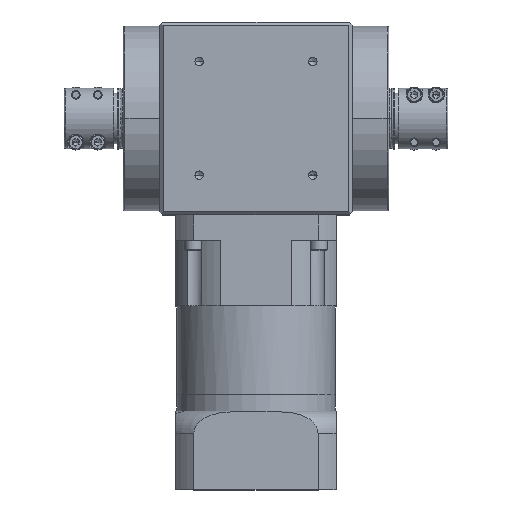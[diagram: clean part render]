
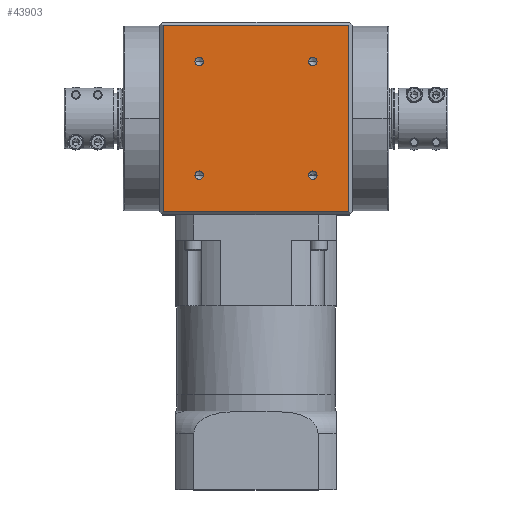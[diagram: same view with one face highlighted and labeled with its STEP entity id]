
A CAD part, top view. The second image highlights one B-rep face of the part: STEP entity #43903.
In plain terms, the highlighted planar face has unit normal (0, 0, 1).
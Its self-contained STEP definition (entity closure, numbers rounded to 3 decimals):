
#554 = CIRCLE ( 'NONE', #67215, 2.5 ) ;
#6234 = DIRECTION ( 'NONE',  ( 0., 1., 0. ) ) ;
#9352 = ORIENTED_EDGE ( 'NONE', *, *, #19589, .F. ) ;
#10161 = VERTEX_POINT ( 'NONE', #54222 ) ;
#10704 = FACE_BOUND ( 'NONE', #53357, .T. ) ;
#12581 = CARTESIAN_POINT ( 'NONE',  ( 33.588, 229.188, 57. ) ) ;
#13636 = EDGE_LOOP ( 'NONE', ( #31918, #82743 ) ) ;
#13940 = DIRECTION ( 'NONE',  ( 0., 1., 0. ) ) ;
#14616 = AXIS2_PLACEMENT_3D ( 'NONE', #70724, #14949, #80100 ) ;
#14949 = DIRECTION ( 'NONE',  ( 0., 0., 1. ) ) ;
#15554 = DIRECTION ( 'NONE',  ( 0., 0., 1. ) ) ;
#15718 = DIRECTION ( 'NONE',  ( 0., 0., 1. ) ) ;
#16480 = EDGE_CURVE ( 'NONE', #101537, #73835, #53995, .T. ) ;
#16863 = VECTOR ( 'NONE', #115399, 1000. ) ;
#17016 = CARTESIAN_POINT ( 'NONE',  ( -54.844, 248.1, 57. ) ) ;
#19589 = EDGE_CURVE ( 'NONE', #98104, #79931, #90625, .T. ) ;
#20085 = CARTESIAN_POINT ( 'NONE',  ( -33.588, 224.188, 57. ) ) ;
#20823 = FACE_BOUND ( 'NONE', #13636, .T. ) ;
#21140 = CARTESIAN_POINT ( 'NONE',  ( 54.844, 138.1, 57. ) ) ;
#26269 = EDGE_CURVE ( 'NONE', #62746, #98104, #114747, .T. ) ;
#28469 = CARTESIAN_POINT ( 'NONE',  ( 33.588, 162.012, 57. ) ) ;
#28830 = CARTESIAN_POINT ( 'NONE',  ( -33.588, 226.688, 57. ) ) ;
#29801 = CIRCLE ( 'NONE', #119875, 2.5 ) ;
#31673 = DIRECTION ( 'NONE',  ( 0., 0., 1. ) ) ;
#31878 = VERTEX_POINT ( 'NONE', #110213 ) ;
#31918 = ORIENTED_EDGE ( 'NONE', *, *, #84713, .F. ) ;
#31940 = CARTESIAN_POINT ( 'NONE',  ( -33.588, 159.512, 57. ) ) ;
#32024 = VERTEX_POINT ( 'NONE', #93400 ) ;
#36307 = CIRCLE ( 'NONE', #100040, 2.5 ) ;
#36662 = DIRECTION ( 'NONE',  ( 0., 0., 1. ) ) ;
#37597 = AXIS2_PLACEMENT_3D ( 'NONE', #87512, #31673, #96957 ) ;
#38192 = DIRECTION ( 'NONE',  ( 0., -1., 0. ) ) ;
#39275 = DIRECTION ( 'NONE',  ( 0., 0., 1. ) ) ;
#40201 = CARTESIAN_POINT ( 'NONE',  ( -60., 248.1, 57. ) ) ;
#40751 = CARTESIAN_POINT ( 'NONE',  ( 54.844, 0., 57. ) ) ;
#41303 = DIRECTION ( 'NONE',  ( 0., -1., 0. ) ) ;
#41309 = EDGE_LOOP ( 'NONE', ( #78503, #9352, #109356, #103509 ) ) ;
#43333 = EDGE_CURVE ( 'NONE', #74948, #10161, #114455, .T. ) ;
#43696 = VECTOR ( 'NONE', #66963, 1000. ) ;
#43903 = ADVANCED_FACE ( 'NONE', ( #50252, #20823, #10704, #53310, #81621 ), #70957, .F. ) ;
#43996 = EDGE_LOOP ( 'NONE', ( #79579, #64562 ) ) ;
#44377 = VECTOR ( 'NONE', #105480, 1000. ) ;
#44475 = AXIS2_PLACEMENT_3D ( 'NONE', #71524, #15718, #80888 ) ;
#44537 = LINE ( 'NONE', #40751, #16863 ) ;
#48348 = AXIS2_PLACEMENT_3D ( 'NONE', #71352, #15554, #80722 ) ;
#49474 = EDGE_LOOP ( 'NONE', ( #99399, #115585 ) ) ;
#50247 = ORIENTED_EDGE ( 'NONE', *, *, #71213, .F. ) ;
#50252 = FACE_BOUND ( 'NONE', #43996, .T. ) ;
#53310 = FACE_BOUND ( 'NONE', #49474, .T. ) ;
#53357 = EDGE_LOOP ( 'NONE', ( #50247, #72750 ) ) ;
#53995 = CIRCLE ( 'NONE', #48348, 2.5 ) ;
#54222 = CARTESIAN_POINT ( 'NONE',  ( 33.588, 224.188, 57. ) ) ;
#59703 = VERTEX_POINT ( 'NONE', #21140 ) ;
#61986 = DIRECTION ( 'NONE',  ( 0., 0., -1. ) ) ;
#62038 = VERTEX_POINT ( 'NONE', #28469 ) ;
#62416 = CIRCLE ( 'NONE', #14616, 2.5 ) ;
#62746 = VERTEX_POINT ( 'NONE', #68796 ) ;
#64562 = ORIENTED_EDGE ( 'NONE', *, *, #91056, .F. ) ;
#66135 = CIRCLE ( 'NONE', #37597, 2.5 ) ;
#66923 = EDGE_CURVE ( 'NONE', #31878, #32024, #29801, .T. ) ;
#66963 = DIRECTION ( 'NONE',  ( -1., 0., 0. ) ) ;
#67215 = AXIS2_PLACEMENT_3D ( 'NONE', #28830, #94069, #38192 ) ;
#68796 = CARTESIAN_POINT ( 'NONE',  ( -54.844, 138.1, 57. ) ) ;
#70724 = CARTESIAN_POINT ( 'NONE',  ( -33.588, 159.512, 57. ) ) ;
#70957 = PLANE ( 'NONE',  #98477 ) ;
#71213 = EDGE_CURVE ( 'NONE', #113572, #62038, #36307, .T. ) ;
#71352 = CARTESIAN_POINT ( 'NONE',  ( -33.588, 226.688, 57. ) ) ;
#71524 = CARTESIAN_POINT ( 'NONE',  ( 33.588, 226.688, 57. ) ) ;
#72750 = ORIENTED_EDGE ( 'NONE', *, *, #74957, .F. ) ;
#73835 = VERTEX_POINT ( 'NONE', #116644 ) ;
#74948 = VERTEX_POINT ( 'NONE', #12581 ) ;
#74957 = EDGE_CURVE ( 'NONE', #62038, #113572, #66135, .T. ) ;
#78503 = ORIENTED_EDGE ( 'NONE', *, *, #89431, .F. ) ;
#79262 = CARTESIAN_POINT ( 'NONE',  ( 54.844, 248.1, 57. ) ) ;
#79579 = ORIENTED_EDGE ( 'NONE', *, *, #16480, .F. ) ;
#79931 = VERTEX_POINT ( 'NONE', #79262 ) ;
#80100 = DIRECTION ( 'NONE',  ( 0., -1., 0. ) ) ;
#80697 = EDGE_CURVE ( 'NONE', #59703, #62746, #96286, .T. ) ;
#80722 = DIRECTION ( 'NONE',  ( 0., -1., 0. ) ) ;
#80888 = DIRECTION ( 'NONE',  ( 0., -1., 0. ) ) ;
#81621 = FACE_OUTER_BOUND ( 'NONE', #41309, .T. ) ;
#81682 = CARTESIAN_POINT ( 'NONE',  ( 33.588, 157.012, 57. ) ) ;
#82743 = ORIENTED_EDGE ( 'NONE', *, *, #43333, .F. ) ;
#83517 = EDGE_CURVE ( 'NONE', #32024, #31878, #62416, .T. ) ;
#84713 = EDGE_CURVE ( 'NONE', #10161, #74948, #120693, .T. ) ;
#87512 = CARTESIAN_POINT ( 'NONE',  ( 33.588, 159.512, 57. ) ) ;
#89431 = EDGE_CURVE ( 'NONE', #79931, #59703, #44537, .T. ) ;
#90625 = LINE ( 'NONE', #40201, #44377 ) ;
#91056 = EDGE_CURVE ( 'NONE', #73835, #101537, #554, .T. ) ;
#92541 = CARTESIAN_POINT ( 'NONE',  ( 33.588, 159.512, 57. ) ) ;
#93400 = CARTESIAN_POINT ( 'NONE',  ( -33.588, 162.012, 57. ) ) ;
#93598 = VECTOR ( 'NONE', #13940, 1000. ) ;
#94069 = DIRECTION ( 'NONE',  ( 0., 0., 1. ) ) ;
#95169 = CARTESIAN_POINT ( 'NONE',  ( 33.588, 226.688, 57. ) ) ;
#96286 = LINE ( 'NONE', #103728, #43696 ) ;
#96957 = DIRECTION ( 'NONE',  ( 0., -1., 0. ) ) ;
#97211 = DIRECTION ( 'NONE',  ( 0., 0., 1. ) ) ;
#97951 = CARTESIAN_POINT ( 'NONE',  ( -54.844, 0., 57. ) ) ;
#98104 = VERTEX_POINT ( 'NONE', #17016 ) ;
#98477 = AXIS2_PLACEMENT_3D ( 'NONE', #117898, #61986, #6234 ) ;
#99399 = ORIENTED_EDGE ( 'NONE', *, *, #66923, .F. ) ;
#100040 = AXIS2_PLACEMENT_3D ( 'NONE', #92541, #36662, #101973 ) ;
#101537 = VERTEX_POINT ( 'NONE', #20085 ) ;
#101973 = DIRECTION ( 'NONE',  ( 0., -1., 0. ) ) ;
#103509 = ORIENTED_EDGE ( 'NONE', *, *, #80697, .F. ) ;
#103728 = CARTESIAN_POINT ( 'NONE',  ( -60., 138.1, 57. ) ) ;
#104548 = DIRECTION ( 'NONE',  ( 0., -1., 0. ) ) ;
#105480 = DIRECTION ( 'NONE',  ( 1., 0., 0. ) ) ;
#109356 = ORIENTED_EDGE ( 'NONE', *, *, #26269, .F. ) ;
#110213 = CARTESIAN_POINT ( 'NONE',  ( -33.588, 157.012, 57. ) ) ;
#113572 = VERTEX_POINT ( 'NONE', #81682 ) ;
#114455 = CIRCLE ( 'NONE', #44475, 2.5 ) ;
#114747 = LINE ( 'NONE', #97951, #93598 ) ;
#115399 = DIRECTION ( 'NONE',  ( 0., -1., 0. ) ) ;
#115585 = ORIENTED_EDGE ( 'NONE', *, *, #83517, .F. ) ;
#116644 = CARTESIAN_POINT ( 'NONE',  ( -33.588, 229.188, 57. ) ) ;
#117898 = CARTESIAN_POINT ( 'NONE',  ( -60., 250.1, 57. ) ) ;
#118527 = AXIS2_PLACEMENT_3D ( 'NONE', #95169, #39275, #104548 ) ;
#119875 = AXIS2_PLACEMENT_3D ( 'NONE', #31940, #97211, #41303 ) ;
#120693 = CIRCLE ( 'NONE', #118527, 2.5 ) ;
